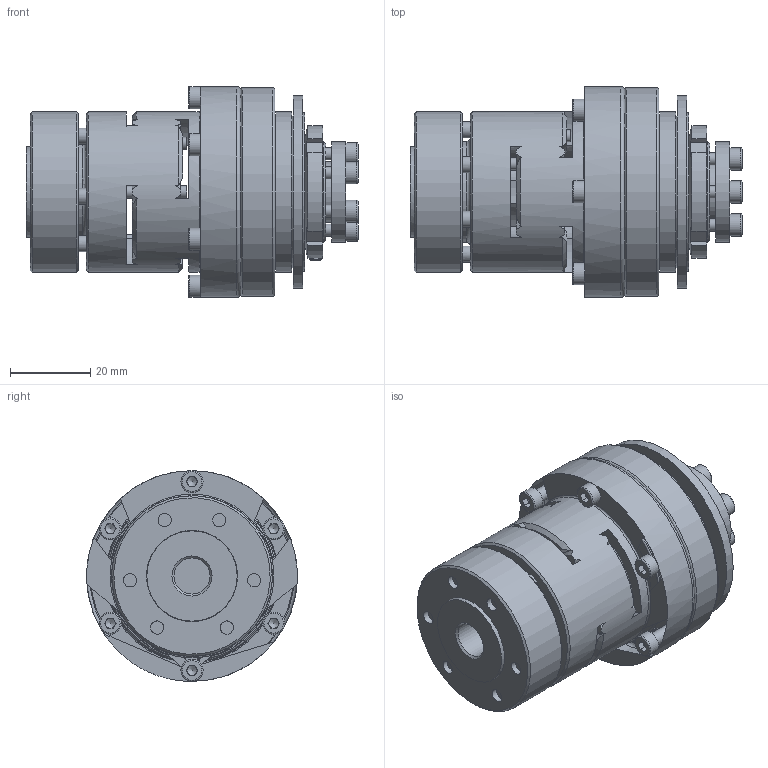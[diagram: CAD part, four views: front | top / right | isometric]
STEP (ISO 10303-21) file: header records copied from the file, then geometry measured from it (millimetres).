
FILE_DESCRIPTION( ( 'Unknown' ), '1' );
FILE_NAME( 'F:/JAKOB-STEP+IGES-Dateien/STEP-Dateien/SKY-ES/SKY-ES 6.stp', 'Unknown', ( 'Unknown' ), ( 'Unknown' ), 'PSStep 10.1', 'Unknown', ' ' );
FILE_SCHEMA( ( 'AUTOMOTIVE_DESIGN { 1 0 10303 214 1 1 1 1 }' ) );
Length unit declared in the file: millimetre
Products named in the file (1): kt102464
Bounding box: 82.7 x 52.5 x 52.5 mm (x, y, z)
Volume: 88194.4 mm3; surface area: 41664.2 mm2
Topology: 1 solids, 16 shells, 738 faces, 1893 edges, 1207 vertices
Faces by surface type: plane 375, cylinder 191, cone 99, torus 63, sphere 10
Full cylindrical faces by diameter (mm): 1.5 x2, 2.5 x16, 3 x19, 3.3 x9, 3.4 x12, 4 x6, 4.3 x6, 5 x1, 5.5 x12, 7 x6, 7.5 x6, 9 x1, 9.5 x1, 12 x1, 15 x1, 18 x2, 19 x1, 19.9 x1, 20 x2, 22 x1, 24 x1, 25 x4, 25.1 x1, 25.2 x1, 25.5 x1, 27.2 x2, 28 x1, 35.1 x2, 37.6 x2, 37.9 x2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
Entity records: 27164 total; most frequent: CARTESIAN_POINT 4961, DIRECTION 3462, ORIENTED_EDGE 2982, EDGE_CURVE 1491, AXIS2_PLACEMENT_3D 1423, EDGE_LOOP 1100, VERTEX_POINT 1068, FACE_OUTER_BOUND 902
